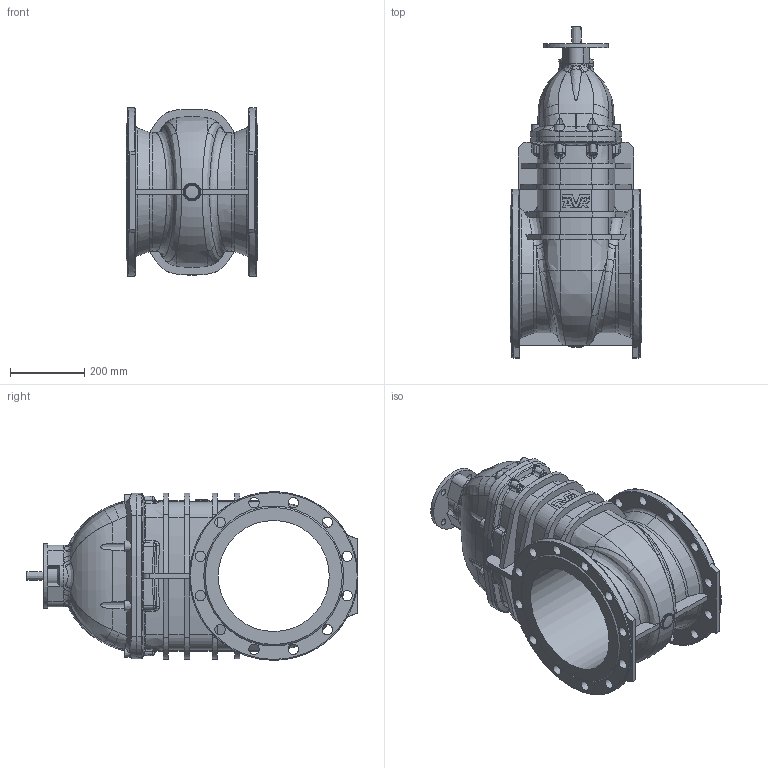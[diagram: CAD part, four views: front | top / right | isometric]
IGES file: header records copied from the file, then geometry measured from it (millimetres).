
Start section: SolidWorks IGES file using analytic representation for surfaces
Global section: file name: \\avksan2\techshare\PBM outline export from Enovia\O_37_51_DN300_01XXXX_AA0_igs.igs; native system: SolidWorks 2012; preprocessor: SolidWorks 2012; author: pbm; date: 160120.130610; units: millimetre
Bounding box: 356 x 896.5 x 455 mm (x, y, z)
Surface area: 1817659.3 mm2 (no closed solid volume)
Topology: 0 solids, 0 shells, 697 faces, 3689 edges, 3609 vertices
Faces by surface type: bspline 398, revolution 299
